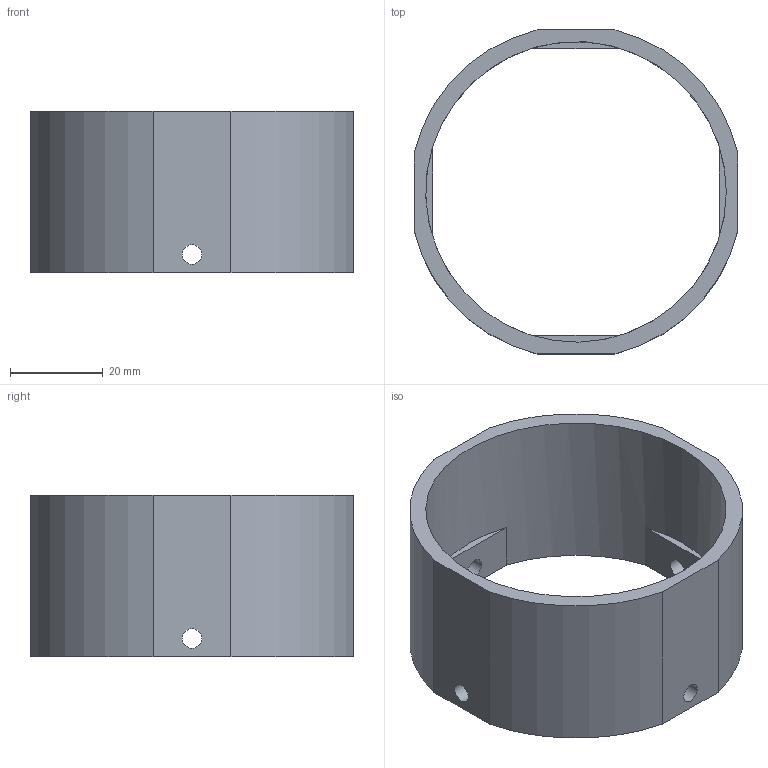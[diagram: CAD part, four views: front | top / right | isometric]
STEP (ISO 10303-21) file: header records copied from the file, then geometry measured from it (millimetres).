
FILE_DESCRIPTION(/* description */ ('STEP AP242','CAx-IF Rec.Pracs.---Representation and Presentation of Product Manufacturing Information (PMI)---4.0---2014-10-13','CAx-IF Rec.Pracs.---3D Tessellated Geometry---0.4---2014-09-14','2;1'),/* implementation_level */ '2;1');
FILE_NAME(/* name */ '27 - Harmonic skirt - Harmonic skirt',/* time_stamp */ '2024-12-03T19:58:33Z',/* author */ (''),/* organization */ (''),/* preprocessor_version */ 'ST-DEVELOPER v20',/* originating_system */ 'ONSHAPE BY PTC INC, 1.190',/* authorisation */ ' ');
FILE_SCHEMA (('AP242_MANAGED_MODEL_BASED_3D_ENGINEERING_MIM_LF { 1 0 10303 442 1 1 4 }'));
Length unit declared in the file: metre
Products named in the file (1): Harmonic skirt
Bounding box: 70 x 70 x 35 mm (x, y, z)
Volume: 25347.4 mm3; surface area: 16703 mm2
Topology: 1 solids, 1 shells, 23 faces, 66 edges, 45 vertices
Faces by surface type: plane 14, cylinder 9
Full cylindrical faces by diameter (mm): 4.2 x4, 65 x1
Entity records: 750 total; most frequent: DIRECTION 130, CARTESIAN_POINT 122, ORIENTED_EDGE 114, EDGE_CURVE 57, AXIS2_PLACEMENT_3D 49, VERTEX_POINT 41, EDGE_LOOP 38, FACE_BOUND 38
